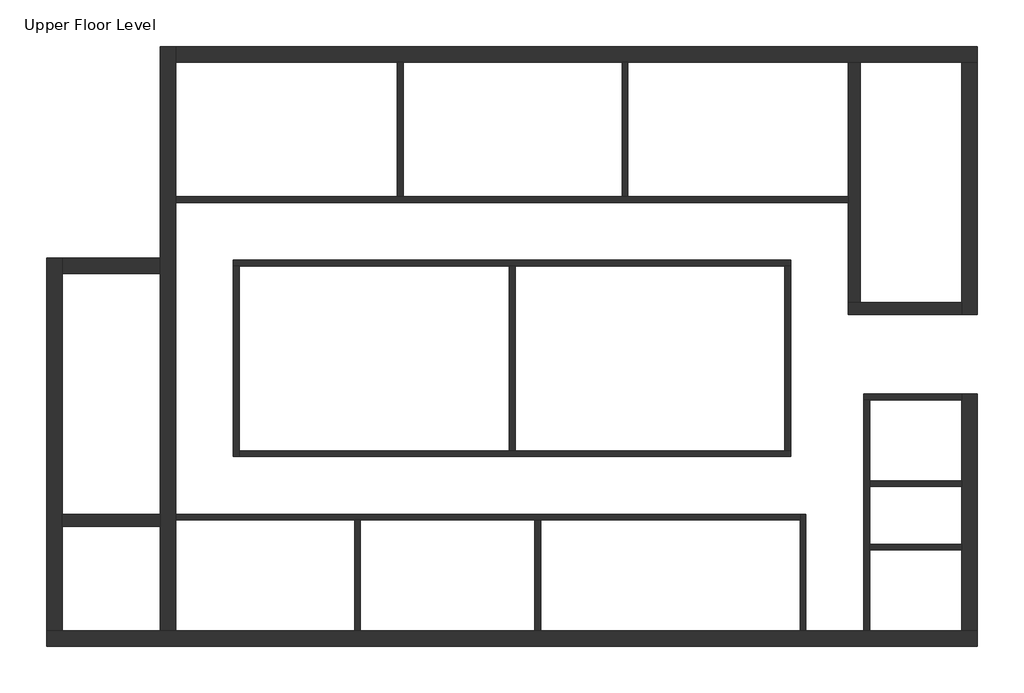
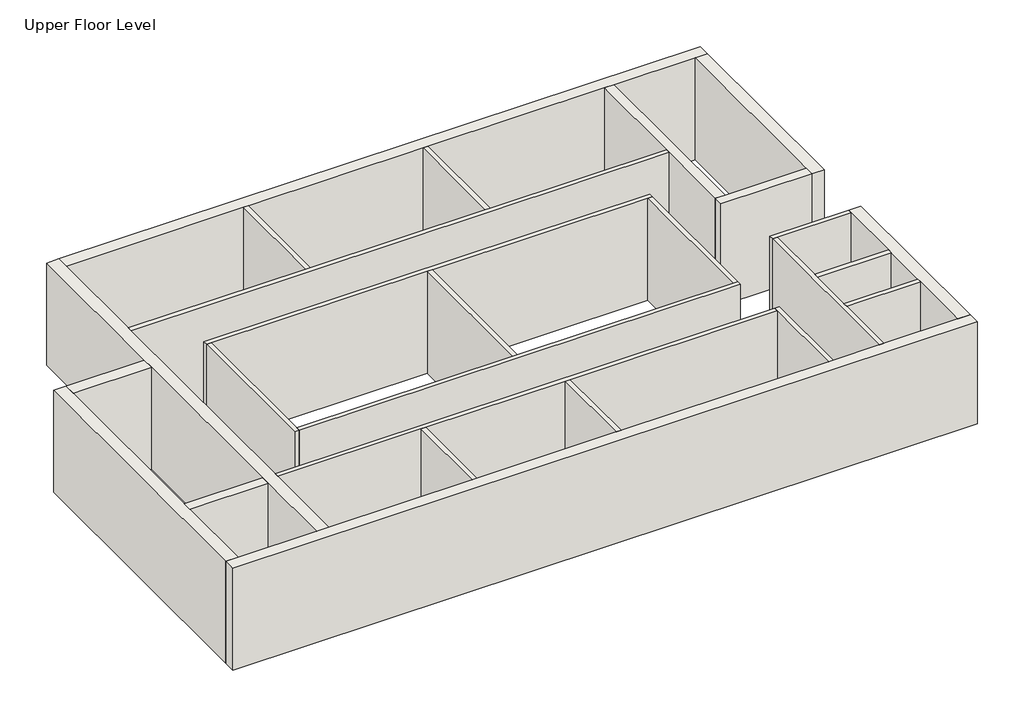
# One storey: 26 walls.
"""IFC4 building model written with IfcOpenShell, lengths in millimetres."""

from ifc_helpers import new_model, si_unit, frame, origin, place, context, project, spatial, polyline, outline, extrude, faceted_brep, element, save

model = new_model("IFC4")

# Units and contexts
model_context = context("Model", 3, world=origin())
ifc_project = project(units=[si_unit("LENGTHUNIT", "METRE", prefix="MILLI")], contexts=[model_context])

# Site, building, storey
site = spatial("IfcSite", under=ifc_project)
building = spatial("IfcBuilding", under=site)
storey = spatial("IfcBuildingStorey", under=building, Name="Upper Floor Level", Elevation=4500.0)

# Walls
placement = place(None, origin())
element("IfcWall", 1, ObjectType="Exterior Wall", at=placement, inside=storey, context=model_context, shape_type="Brep", body=[
    faceted_brep([(427673.079955, -400838.7432771, 4500.0), (427673.079955, -397959.7432771, 4500.0), (427673.079955, -397809.7432771, 4500.0), (427673.079955, -389709.7432771, 4500.0), (427673.079955, -389559.7432771, 4500.0), (427673.079955, -386060.7432771, 4500.0), (427673.079955, -385658.7432771, 4500.0), (427673.079955, -385658.7432771, 8000.0), (427673.079955, -386060.7432771, 8000.0), (427673.079955, -389559.7432771, 8000.0), (427673.079955, -389709.7432771, 8000.0), (427673.079955, -397809.7432771, 8000.0), (427673.079955, -397959.7432771, 8000.0), (427673.079955, -400838.7432771, 8000.0), (427271.079955, -400838.7432771, 4500.0), (427271.079955, -400838.7432771, 8000.0), (427271.079955, -398119.7432771, 8000.0), (427271.079955, -397809.7432771, 8000.0), (427271.079955, -391559.7432771, 8000.0), (427271.079955, -391157.7432771, 8000.0), (427271.079955, -385658.7432771, 8000.0), (427271.079955, -385658.7432771, 4500.0), (427271.079955, -391157.7432771, 4500.0), (427271.079955, -391559.7432771, 4500.0), (427271.079955, -397809.7432771, 4500.0), (427271.079955, -398119.7432771, 4500.0)], [[[0, 1, 2, 3, 4, 5, 6, 7, 8, 9, 10, 11, 12, 13]], [[14, 15, 16, 17, 18, 19, 20, 21, 22, 23, 24, 25]], [[6, 5, 4, 3, 2, 1, 0, 14, 25, 24, 23, 22, 21]], [[13, 12, 11, 10, 9, 8, 7, 20, 19, 18, 17, 16, 15]], [[7, 6, 21, 20]], [[0, 13, 15, 14]]]),
])
element("IfcWall", 2, ObjectType="Exterior Wall", at=placement, inside=storey, context=model_context, shape_type="Brep", body=[
    faceted_brep([(427673.079955, -386060.7432771, 4500.0), (433431.2228122, -386060.7432771, 4500.0), (433581.2228122, -386060.7432771, 4500.0), (439264.3656693, -386060.7432771, 4500.0), (439414.3656693, -386060.7432771, 4500.0), (445143.079955, -386060.7432771, 4500.0), (445453.079955, -386060.7432771, 4500.0), (448089.079955, -386060.7432771, 4500.0), (448491.079955, -386060.7432771, 4500.0), (448491.079955, -386060.7432771, 8000.0), (448089.079955, -386060.7432771, 8000.0), (445453.079955, -386060.7432771, 8000.0), (445143.079955, -386060.7432771, 8000.0), (439414.3656693, -386060.7432771, 8000.0), (439264.3656693, -386060.7432771, 8000.0), (433581.2228122, -386060.7432771, 8000.0), (433431.2228122, -386060.7432771, 8000.0), (427673.079955, -386060.7432771, 8000.0), (427673.079955, -385658.7432771, 4500.0), (427673.079955, -385658.7432771, 8000.0), (448491.079955, -385658.7432771, 8000.0), (448491.079955, -385658.7432771, 4500.0)], [[[0, 1, 2, 3, 4, 5, 6, 7, 8, 9, 10, 11, 12, 13, 14, 15, 16, 17]], [[18, 19, 20, 21]], [[8, 7, 6, 5, 4, 3, 2, 1, 0, 18, 21]], [[17, 16, 15, 14, 13, 12, 11, 10, 9, 20, 19]], [[0, 17, 19, 18]], [[9, 8, 21, 20]]]),
])
element("IfcWall", 3, ObjectType="Exterior Wall", at=placement, inside=storey, context=model_context, shape_type="Brep", body=[
    faceted_brep([(448089.079955, -386060.7432771, 4500.0), (448089.079955, -392310.7432771, 4500.0), (448089.079955, -392620.7432771, 4500.0), (448089.079955, -392620.7432771, 8000.0), (448089.079955, -392310.7432771, 8000.0), (448089.079955, -386060.7432771, 8000.0), (448491.079955, -386060.7432771, 4500.0), (448491.079955, -386060.7432771, 8000.0), (448491.079955, -392620.7432771, 8000.0), (448491.079955, -392620.7432771, 4500.0)], [[[0, 1, 2, 3, 4, 5]], [[6, 7, 8, 9]], [[2, 1, 0, 6, 9]], [[5, 4, 3, 8, 7]], [[0, 5, 7, 6]], [[3, 2, 9, 8]]]),
])
element("IfcWall", 4, ObjectType="Exterior Wall", at=placement, inside=storey, context=model_context, shape_type="Brep", body=[
    faceted_brep([(424727.079955, -400838.7432771, 4500.0), (424727.079955, -398119.7432771, 4500.0), (424727.079955, -397809.7432771, 4500.0), (424727.079955, -391559.7432771, 4500.0), (424727.079955, -391157.7432771, 4500.0), (424727.079955, -391157.7432771, 8000.0), (424727.079955, -391559.7432771, 8000.0), (424727.079955, -397809.7432771, 8000.0), (424727.079955, -398119.7432771, 8000.0), (424727.079955, -400838.7432771, 8000.0), (424325.079955, -400838.7432771, 4500.0), (424325.079955, -400838.7432771, 8000.0), (424325.079955, -391157.7432771, 8000.0), (424325.079955, -391157.7432771, 4500.0)], [[[0, 1, 2, 3, 4, 5, 6, 7, 8, 9]], [[10, 11, 12, 13]], [[4, 3, 2, 1, 0, 10, 13]], [[9, 8, 7, 6, 5, 12, 11]], [[5, 4, 13, 12]], [[0, 9, 11, 10]]]),
])
element("IfcWall", 5, ObjectType="Exterior Wall", at=placement, inside=storey, context=model_context, shape_type="Brep", body=[
    faceted_brep([(448491.079955, -400838.7432771, 4500.0), (448089.079955, -400838.7432771, 4500.0), (445689.079955, -400838.7432771, 4500.0), (445539.079955, -400838.7432771, 4500.0), (444039.079955, -400838.7432771, 4500.0), (443889.079955, -400838.7432771, 4500.0), (437153.6355106, -400838.7432771, 4500.0), (437003.6355106, -400838.7432771, 4500.0), (432470.3021774, -400838.7432771, 4500.0), (432320.3021774, -400838.7432771, 4500.0), (427673.079955, -400838.7432771, 4500.0), (427271.079955, -400838.7432771, 4500.0), (424727.079955, -400838.7432771, 4500.0), (424325.079955, -400838.7432771, 4500.0), (424325.079955, -400838.7432771, 8000.0), (424727.079955, -400838.7432771, 8000.0), (427271.079955, -400838.7432771, 8000.0), (427673.079955, -400838.7432771, 8000.0), (432320.3021774, -400838.7432771, 8000.0), (432470.3021774, -400838.7432771, 8000.0), (437003.6355106, -400838.7432771, 8000.0), (437153.6355106, -400838.7432771, 8000.0), (443889.079955, -400838.7432771, 8000.0), (444039.079955, -400838.7432771, 8000.0), (445539.079955, -400838.7432771, 8000.0), (445689.079955, -400838.7432771, 8000.0), (448089.079955, -400838.7432771, 8000.0), (448491.079955, -400838.7432771, 8000.0), (448491.079955, -401240.7432771, 4500.0), (448491.079955, -401240.7432771, 8000.0), (424325.079955, -401240.7432771, 8000.0), (424325.079955, -401240.7432771, 4500.0)], [[[0, 1, 2, 3, 4, 5, 6, 7, 8, 9, 10, 11, 12, 13, 14, 15, 16, 17, 18, 19, 20, 21, 22, 23, 24, 25, 26, 27]], [[28, 29, 30, 31]], [[13, 12, 11, 10, 9, 8, 7, 6, 5, 4, 3, 2, 1, 0, 28, 31]], [[27, 26, 25, 24, 23, 22, 21, 20, 19, 18, 17, 16, 15, 14, 30, 29]], [[0, 27, 29, 28]], [[14, 13, 31, 30]]]),
])
element("IfcWall", 6, ObjectType="Exterior Wall", at=placement, inside=storey, context=model_context, shape_type="Brep", body=[
    faceted_brep([(448089.079955, -394688.7432771, 4500.0), (448089.079955, -394838.7432771, 4500.0), (448089.079955, -396938.7432771, 4500.0), (448089.079955, -397088.7432771, 4500.0), (448089.079955, -398588.7432771, 4500.0), (448089.079955, -398738.7432771, 4500.0), (448089.079955, -400838.7432771, 4500.0), (448089.079955, -400838.7432771, 8000.0), (448089.079955, -398738.7432771, 8000.0), (448089.079955, -398588.7432771, 8000.0), (448089.079955, -397088.7432771, 8000.0), (448089.079955, -396938.7432771, 8000.0), (448089.079955, -394838.7432771, 8000.0), (448089.079955, -394688.7432771, 8000.0), (448491.079955, -394688.7432771, 4500.0), (448491.079955, -394688.7432771, 8000.0), (448491.079955, -400838.7432771, 8000.0), (448491.079955, -400838.7432771, 4500.0)], [[[0, 1, 2, 3, 4, 5, 6, 7, 8, 9, 10, 11, 12, 13]], [[14, 15, 16, 17]], [[6, 5, 4, 3, 2, 1, 0, 14, 17]], [[13, 12, 11, 10, 9, 8, 7, 16, 15]], [[7, 6, 17, 16]], [[0, 13, 15, 14]]]),
])
element("IfcWall", 7, ObjectType="Exterior Wall", at=placement, inside=storey, context=model_context, shape_type="SweptSolid", body=[
    extrude(outline(polyline([(427271.079955, -391559.7432771), (424727.079955, -391559.7432771), (424727.079955, -391157.7432771), (427271.079955, -391157.7432771), (427271.079955, -391559.7432771)])), frame((0.0, 0.0, 4500.0), z_axis=(0.0, 0.0, 1.0), x_axis=(1.0, 0.0, 0.0)), (0.0, 0.0, 1.0), 3500.0),
])
element("IfcWall", 8, ObjectType="Fire Partition Wall", at=placement, inside=storey, context=model_context, shape_type="SweptSolid", body=[
    extrude(outline(polyline([(427271.079955, -398119.7432771), (424727.079955, -398119.7432771), (424727.079955, -397809.7432771), (427271.079955, -397809.7432771), (427271.079955, -398119.7432771)])), frame((0.0, 0.0, 4500.0), z_axis=(0.0, 0.0, 1.0), x_axis=(1.0, 0.0, 0.0)), (0.0, 0.0, 1.0), 3500.0),
])
element("IfcWall", 9, ObjectType="Fire Partition Wall", at=placement, inside=storey, context=model_context, shape_type="Brep", body=[
    faceted_brep([(445453.079955, -392310.7432771, 4500.0), (445453.079955, -386060.7432771, 4500.0), (445453.079955, -386060.7432771, 8000.0), (445453.079955, -392310.7432771, 8000.0), (445143.079955, -392310.7432771, 4500.0), (445143.079955, -392310.7432771, 8000.0), (445143.079955, -389709.7432771, 8000.0), (445143.079955, -389559.7432771, 8000.0), (445143.079955, -386060.7432771, 8000.0), (445143.079955, -386060.7432771, 4500.0), (445143.079955, -389559.7432771, 4500.0), (445143.079955, -389709.7432771, 4500.0)], [[[0, 1, 2, 3]], [[4, 5, 6, 7, 8, 9, 10, 11]], [[1, 0, 4, 11, 10, 9]], [[3, 2, 8, 7, 6, 5]], [[2, 1, 9, 8]], [[0, 3, 5, 4]]]),
])
element("IfcWall", 10, ObjectType="Fire Partition Wall", at=placement, inside=storey, context=model_context, shape_type="Brep", body=[
    faceted_brep([(448089.079955, -392310.7432771, 4500.0), (445453.079955, -392310.7432771, 4500.0), (445143.079955, -392310.7432771, 4500.0), (445143.079955, -392310.7432771, 8000.0), (445453.079955, -392310.7432771, 8000.0), (448089.079955, -392310.7432771, 8000.0), (448089.079955, -392620.7432771, 4500.0), (448089.079955, -392620.7432771, 8000.0), (445143.079955, -392620.7432771, 8000.0), (445143.079955, -392620.7432771, 4500.0)], [[[0, 1, 2, 3, 4, 5]], [[6, 7, 8, 9]], [[2, 1, 0, 6, 9]], [[5, 4, 3, 8, 7]], [[0, 5, 7, 6]], [[3, 2, 9, 8]]]),
])
element("IfcWall", 11, ObjectType="Interior Wall", at=placement, inside=storey, context=model_context, shape_type="Brep", body=[
    faceted_brep([(445143.079955, -389559.7432771, 4500.0), (439414.3656693, -389559.7432771, 4500.0), (439264.3656693, -389559.7432771, 4500.0), (433581.2228122, -389559.7432771, 4500.0), (433431.2228122, -389559.7432771, 4500.0), (427673.079955, -389559.7432771, 4500.0), (427673.079955, -389559.7432771, 8000.0), (433431.2228122, -389559.7432771, 8000.0), (433581.2228122, -389559.7432771, 8000.0), (439264.3656693, -389559.7432771, 8000.0), (439414.3656693, -389559.7432771, 8000.0), (445143.079955, -389559.7432771, 8000.0), (445143.079955, -389709.7432771, 4500.0), (445143.079955, -389709.7432771, 8000.0), (427673.079955, -389709.7432771, 8000.0), (427673.079955, -389709.7432771, 4500.0)], [[[0, 1, 2, 3, 4, 5, 6, 7, 8, 9, 10, 11]], [[12, 13, 14, 15]], [[5, 4, 3, 2, 1, 0, 12, 15]], [[11, 10, 9, 8, 7, 6, 14, 13]], [[6, 5, 15, 14]], [[0, 11, 13, 12]]]),
])
element("IfcWall", 12, ObjectType="Interior Wall", at=placement, inside=storey, context=model_context, shape_type="SweptSolid", body=[
    extrude(outline(polyline([(433581.2228122, -386060.7432771), (433581.2228122, -389559.7432771), (433431.2228122, -389559.7432771), (433431.2228122, -386060.7432771), (433581.2228122, -386060.7432771)])), frame((0.0, 0.0, 4500.0), z_axis=(0.0, 0.0, 1.0), x_axis=(1.0, 0.0, 0.0)), (0.0, 0.0, 1.0), 3500.0),
])
element("IfcWall", 13, ObjectType="Interior Wall", at=placement, inside=storey, context=model_context, shape_type="SweptSolid", body=[
    extrude(outline(polyline([(439414.3656693, -386060.7432771), (439414.3656693, -389559.7432771), (439264.3656693, -389559.7432771), (439264.3656693, -386060.7432771), (439414.3656693, -386060.7432771)])), frame((0.0, 0.0, 4500.0), z_axis=(0.0, 0.0, 1.0), x_axis=(1.0, 0.0, 0.0)), (0.0, 0.0, 1.0), 3500.0),
])
element("IfcWall", 14, ObjectType="Interior Wall", at=placement, inside=storey, context=model_context, shape_type="Brep", body=[
    faceted_brep([(429173.079955, -391359.7432771, 4500.0), (429323.079955, -391359.7432771, 4500.0), (436343.079955, -391359.7432771, 4500.0), (436493.079955, -391359.7432771, 4500.0), (443493.079955, -391359.7432771, 4500.0), (443643.079955, -391359.7432771, 4500.0), (443643.079955, -391359.7432771, 8000.0), (443493.079955, -391359.7432771, 8000.0), (436493.079955, -391359.7432771, 8000.0), (436343.079955, -391359.7432771, 8000.0), (429323.079955, -391359.7432771, 8000.0), (429173.079955, -391359.7432771, 8000.0), (429173.079955, -391209.7432771, 4500.0), (429173.079955, -391209.7432771, 8000.0), (443643.079955, -391209.7432771, 8000.0), (443643.079955, -391209.7432771, 4500.0)], [[[0, 1, 2, 3, 4, 5, 6, 7, 8, 9, 10, 11]], [[12, 13, 14, 15]], [[5, 4, 3, 2, 1, 0, 12, 15]], [[11, 10, 9, 8, 7, 6, 14, 13]], [[0, 11, 13, 12]], [[6, 5, 15, 14]]]),
])
element("IfcWall", 15, ObjectType="Interior Wall", at=placement, inside=storey, context=model_context, shape_type="Brep", body=[
    faceted_brep([(429323.079955, -396309.7432771, 4500.0), (429323.079955, -396159.7432771, 4500.0), (429323.079955, -391359.7432771, 4500.0), (429323.079955, -391359.7432771, 8000.0), (429323.079955, -396159.7432771, 8000.0), (429323.079955, -396309.7432771, 8000.0), (429173.079955, -396309.7432771, 4500.0), (429173.079955, -396309.7432771, 8000.0), (429173.079955, -391359.7432771, 8000.0), (429173.079955, -391359.7432771, 4500.0)], [[[0, 1, 2, 3, 4, 5]], [[6, 7, 8, 9]], [[2, 1, 0, 6, 9]], [[5, 4, 3, 8, 7]], [[3, 2, 9, 8]], [[0, 5, 7, 6]]]),
])
element("IfcWall", 16, ObjectType="Interior Wall", at=placement, inside=storey, context=model_context, shape_type="SweptSolid", body=[
    extrude(outline(polyline([(436493.079955, -391359.7432771), (436493.079955, -396159.7432771), (436343.079955, -396159.7432771), (436343.079955, -391359.7432771), (436493.079955, -391359.7432771)])), frame((0.0, 0.0, 4500.0), z_axis=(0.0, 0.0, 1.0), x_axis=(1.0, 0.0, 0.0)), (0.0, 0.0, 1.0), 3500.0),
])
element("IfcWall", 17, ObjectType="Interior Wall", at=placement, inside=storey, context=model_context, shape_type="SweptSolid", body=[
    extrude(outline(polyline([(443643.079955, -391359.7432771), (443643.079955, -396159.7432771), (443493.079955, -396159.7432771), (443493.079955, -391359.7432771), (443643.079955, -391359.7432771)])), frame((0.0, 0.0, 4500.0), z_axis=(0.0, 0.0, 1.0), x_axis=(1.0, 0.0, 0.0)), (0.0, 0.0, 1.0), 3500.0),
])
element("IfcWall", 18, ObjectType="Interior Wall", at=placement, inside=storey, context=model_context, shape_type="Brep", body=[
    faceted_brep([(429323.079955, -396309.7432771, 4500.0), (443643.079955, -396309.7432771, 4500.0), (443643.079955, -396309.7432771, 8000.0), (429323.079955, -396309.7432771, 8000.0), (429323.079955, -396159.7432771, 4500.0), (429323.079955, -396159.7432771, 8000.0), (436343.079955, -396159.7432771, 8000.0), (436493.079955, -396159.7432771, 8000.0), (443493.079955, -396159.7432771, 8000.0), (443643.079955, -396159.7432771, 8000.0), (443643.079955, -396159.7432771, 4500.0), (443493.079955, -396159.7432771, 4500.0), (436493.079955, -396159.7432771, 4500.0), (436343.079955, -396159.7432771, 4500.0)], [[[0, 1, 2, 3]], [[4, 5, 6, 7, 8, 9, 10, 11, 12, 13]], [[1, 0, 4, 13, 12, 11, 10]], [[3, 2, 9, 8, 7, 6, 5]], [[2, 1, 10, 9]], [[0, 3, 5, 4]]]),
])
element("IfcWall", 19, ObjectType="Interior Wall", at=placement, inside=storey, context=model_context, shape_type="Brep", body=[
    faceted_brep([(427673.079955, -397959.7432771, 4500.0), (432320.3021774, -397959.7432771, 4500.0), (432470.3021774, -397959.7432771, 4500.0), (437003.6355106, -397959.7432771, 4500.0), (437153.6355106, -397959.7432771, 4500.0), (443889.079955, -397959.7432771, 4500.0), (443889.079955, -397959.7432771, 8000.0), (437153.6355106, -397959.7432771, 8000.0), (437003.6355106, -397959.7432771, 8000.0), (432470.3021774, -397959.7432771, 8000.0), (432320.3021774, -397959.7432771, 8000.0), (427673.079955, -397959.7432771, 8000.0), (427673.079955, -397809.7432771, 4500.0), (427673.079955, -397809.7432771, 8000.0), (443889.079955, -397809.7432771, 8000.0), (443889.079955, -397809.7432771, 4500.0)], [[[0, 1, 2, 3, 4, 5, 6, 7, 8, 9, 10, 11]], [[12, 13, 14, 15]], [[5, 4, 3, 2, 1, 0, 12, 15]], [[11, 10, 9, 8, 7, 6, 14, 13]], [[0, 11, 13, 12]], [[6, 5, 15, 14]]]),
])
element("IfcWall", 20, ObjectType="Interior Wall", at=placement, inside=storey, context=model_context, shape_type="Brep", body=[
    faceted_brep([(443889.079955, -397809.7432771, 4500.0), (443889.079955, -397959.7432771, 4500.0), (443889.079955, -400838.7432771, 4500.0), (443889.079955, -400838.7432771, 8000.0), (443889.079955, -397959.7432771, 8000.0), (443889.079955, -397809.7432771, 8000.0), (444039.079955, -397809.7432771, 4500.0), (444039.079955, -397809.7432771, 8000.0), (444039.079955, -400838.7432771, 8000.0), (444039.079955, -400838.7432771, 4500.0)], [[[0, 1, 2, 3, 4, 5]], [[6, 7, 8, 9]], [[2, 1, 0, 6, 9]], [[5, 4, 3, 8, 7]], [[3, 2, 9, 8]], [[0, 5, 7, 6]]]),
])
element("IfcWall", 21, ObjectType="Interior Wall", at=placement, inside=storey, context=model_context, shape_type="SweptSolid", body=[
    extrude(outline(polyline([(437003.6355106, -400838.7432771), (437003.6355106, -397959.7432771), (437153.6355106, -397959.7432771), (437153.6355106, -400838.7432771), (437003.6355106, -400838.7432771)])), frame((0.0, 0.0, 4500.0), z_axis=(0.0, 0.0, 1.0), x_axis=(1.0, 0.0, 0.0)), (0.0, 0.0, 1.0), 3500.0),
])
element("IfcWall", 22, ObjectType="Interior Wall", at=placement, inside=storey, context=model_context, shape_type="SweptSolid", body=[
    extrude(outline(polyline([(432320.3021774, -400838.7432771), (432320.3021774, -397959.7432771), (432470.3021774, -397959.7432771), (432470.3021774, -400838.7432771), (432320.3021774, -400838.7432771)])), frame((0.0, 0.0, 4500.0), z_axis=(0.0, 0.0, 1.0), x_axis=(1.0, 0.0, 0.0)), (0.0, 0.0, 1.0), 3500.0),
])
element("IfcWall", 23, ObjectType="Interior Wall", at=placement, inside=storey, context=model_context, shape_type="Brep", body=[
    faceted_brep([(448089.079955, -394688.7432771, 4500.0), (445539.079955, -394688.7432771, 4500.0), (445539.079955, -394688.7432771, 8000.0), (448089.079955, -394688.7432771, 8000.0), (448089.079955, -394838.7432771, 4500.0), (448089.079955, -394838.7432771, 8000.0), (445689.079955, -394838.7432771, 8000.0), (445539.079955, -394838.7432771, 8000.0), (445539.079955, -394838.7432771, 4500.0), (445689.079955, -394838.7432771, 4500.0)], [[[0, 1, 2, 3]], [[4, 5, 6, 7, 8, 9]], [[1, 0, 4, 9, 8]], [[3, 2, 7, 6, 5]], [[0, 3, 5, 4]], [[2, 1, 8, 7]]]),
])
element("IfcWall", 24, ObjectType="Interior Wall", at=placement, inside=storey, context=model_context, shape_type="SweptSolid", body=[
    extrude(outline(polyline([(445689.079955, -396938.7432771), (448089.079955, -396938.7432771), (448089.079955, -397088.7432771), (445689.079955, -397088.7432771), (445689.079955, -396938.7432771)])), frame((0.0, 0.0, 4500.0), z_axis=(0.0, 0.0, 1.0), x_axis=(1.0, 0.0, 0.0)), (0.0, 0.0, 1.0), 3500.0),
])
element("IfcWall", 25, ObjectType="Interior Wall", at=placement, inside=storey, context=model_context, shape_type="SweptSolid", body=[
    extrude(outline(polyline([(445689.079955, -398588.7432771), (448089.079955, -398588.7432771), (448089.079955, -398738.7432771), (445689.079955, -398738.7432771), (445689.079955, -398588.7432771)])), frame((0.0, 0.0, 4500.0), z_axis=(0.0, 0.0, 1.0), x_axis=(1.0, 0.0, 0.0)), (0.0, 0.0, 1.0), 3500.0),
])
element("IfcWall", 26, ObjectType="Interior Wall", at=placement, inside=storey, context=model_context, shape_type="Brep", body=[
    faceted_brep([(445539.079955, -394838.7432771, 4500.0), (445539.079955, -400838.7432771, 4500.0), (445539.079955, -400838.7432771, 8000.0), (445539.079955, -394838.7432771, 8000.0), (445689.079955, -394838.7432771, 4500.0), (445689.079955, -394838.7432771, 8000.0), (445689.079955, -396938.7432771, 8000.0), (445689.079955, -397088.7432771, 8000.0), (445689.079955, -398588.7432771, 8000.0), (445689.079955, -398738.7432771, 8000.0), (445689.079955, -400838.7432771, 8000.0), (445689.079955, -400838.7432771, 4500.0), (445689.079955, -398738.7432771, 4500.0), (445689.079955, -398588.7432771, 4500.0), (445689.079955, -397088.7432771, 4500.0), (445689.079955, -396938.7432771, 4500.0)], [[[0, 1, 2, 3]], [[4, 5, 6, 7, 8, 9, 10, 11, 12, 13, 14, 15]], [[1, 0, 4, 15, 14, 13, 12, 11]], [[3, 2, 10, 9, 8, 7, 6, 5]], [[0, 3, 5, 4]], [[2, 1, 11, 10]]]),
])

save(model, "model.ifc")
